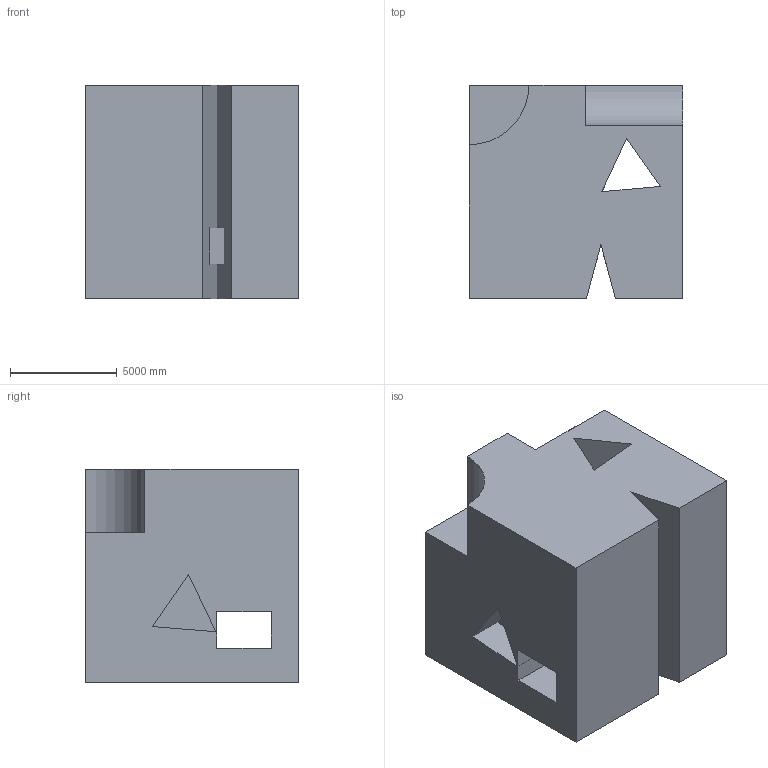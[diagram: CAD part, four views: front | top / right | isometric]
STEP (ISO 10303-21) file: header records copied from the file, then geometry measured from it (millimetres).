
FILE_DESCRIPTION (( 'STEP AP203' ), '1' );
FILE_NAME ('578.STEP', '2022-07-29T11:54:50', ( 'user' ), ( '' ), 'SwSTEP 2.0', 'SolidWorks 2021', '' );
FILE_SCHEMA (( 'CONFIG_CONTROL_DESIGN' ));
Length unit declared in the file: centimetre
Products named in the file (1): 578
Bounding box: 10000 x 10000 x 10000 mm (x, y, z)
Volume: 869033918598.1 mm3; surface area: 789840855.3 mm2
Topology: 1 solids, 1 shells, 25 faces, 72 edges, 48 vertices
Faces by surface type: plane 23, cylinder 2
Entity records: 899 total; most frequent: CARTESIAN_POINT 146, ORIENTED_EDGE 144, DIRECTION 128, EDGE_CURVE 72, LINE 68, VECTOR 68, VERTEX_POINT 48, EDGE_LOOP 30
